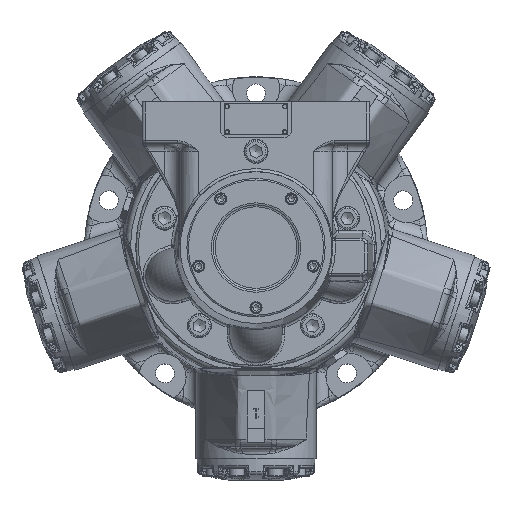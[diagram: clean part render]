
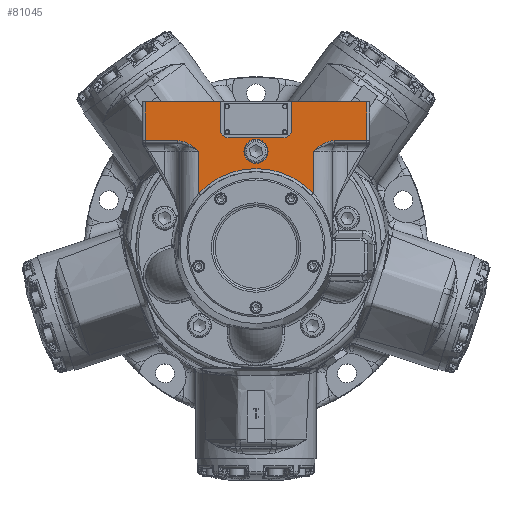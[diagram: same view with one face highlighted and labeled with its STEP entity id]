
A CAD part, top view. The second image highlights one B-rep face of the part: STEP entity #81045.
In plain terms, the highlighted planar face has unit normal (0, 0, 1).
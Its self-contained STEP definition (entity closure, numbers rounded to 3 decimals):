
#1718=FACE_BOUND('',#17662,.T.);
#2055=PLANE('',#86446);
#4512=LINE('',#118540,#8312);
#4531=LINE('',#119482,#8331);
#4565=LINE('',#120072,#8365);
#4570=LINE('',#120351,#8370);
#4572=LINE('',#120433,#8372);
#4592=LINE('',#134383,#8392);
#4599=LINE('',#134398,#8399);
#4600=LINE('',#134400,#8400);
#4623=LINE('',#134558,#8423);
#4624=LINE('',#134562,#8424);
#4625=LINE('',#134565,#8425);
#8312=VECTOR('',#93832,10.);
#8331=VECTOR('',#93899,10.);
#8365=VECTOR('',#94085,10.);
#8370=VECTOR('',#94130,10.);
#8372=VECTOR('',#94142,10.);
#8392=VECTOR('',#94386,10.);
#8399=VECTOR('',#94403,10.);
#8400=VECTOR('',#94404,10.);
#8423=VECTOR('',#94531,10.);
#8424=VECTOR('',#94534,10.);
#8425=VECTOR('',#94537,10.);
#12476=FACE_OUTER_BOUND('',#17661,.T.);
#17661=EDGE_LOOP('',(#51322,#51323,#51324,#51325,#51326,#51327,#51328,#51329,
#51330,#51331,#51332,#51333,#51334,#51335,#51336,#51337));
#17662=EDGE_LOOP('',(#51338));
#22885=CIRCLE('',#86336,83.375);
#22939=CIRCLE('',#86407,12.7);
#22954=CIRCLE('',#86447,8.);
#22955=CIRCLE('',#86448,8.);
#26250=B_SPLINE_CURVE_WITH_KNOTS('',3,(#120133,#120134,#120135,#120136,
#120137,#120138,#120139,#120140,#120141,#120142,#120143,#120144),
 .UNSPECIFIED.,.F.,.F.,(4,2,1,1,1,1,1,1,4),(-0.002,0.,0.504,
1.007,1.511,1.762,2.014,2.266,
2.518),.UNSPECIFIED.);
#26252=B_SPLINE_CURVE_WITH_KNOTS('',3,(#120417,#120418,#120419,#120420,
#120421,#120422,#120423,#120424,#120425,#120426,#120427,#120428),
 .UNSPECIFIED.,.F.,.F.,(4,1,1,1,1,1,1,2,4),(0.,0.504,0.755,
1.007,1.259,1.511,2.014,2.518,
2.519),.UNSPECIFIED.);
#30450=VERTEX_POINT('',#118537);
#30451=VERTEX_POINT('',#118539);
#30503=VERTEX_POINT('',#119468);
#30504=VERTEX_POINT('',#119481);
#30552=VERTEX_POINT('',#120068);
#30553=VERTEX_POINT('',#120070);
#30558=VERTEX_POINT('',#120348);
#30560=VERTEX_POINT('',#120416);
#30561=VERTEX_POINT('',#120431);
#30654=VERTEX_POINT('',#134381);
#30657=VERTEX_POINT('',#134396);
#30658=VERTEX_POINT('',#134399);
#30671=VERTEX_POINT('',#134426);
#30693=VERTEX_POINT('',#134557);
#30694=VERTEX_POINT('',#134559);
#30695=VERTEX_POINT('',#134561);
#30696=VERTEX_POINT('',#134563);
#37829=EDGE_CURVE('',#30450,#30451,#4512,.T.);
#37906=EDGE_CURVE('',#30503,#30504,#4531,.T.);
#38003=EDGE_CURVE('',#30553,#30552,#4565,.T.);
#38004=EDGE_CURVE('',#30504,#30553,#26250,.T.);
#38023=EDGE_CURVE('',#30552,#30558,#4570,.T.);
#38026=EDGE_CURVE('',#30560,#30450,#26252,.T.);
#38029=EDGE_CURVE('',#30561,#30560,#4572,.T.);
#38115=EDGE_CURVE('',#30451,#30503,#22885,.T.);
#38213=EDGE_CURVE('',#30654,#30561,#4592,.T.);
#38221=EDGE_CURVE('',#30654,#30657,#4599,.T.);
#38222=EDGE_CURVE('',#30658,#30558,#4600,.T.);
#38236=EDGE_CURVE('',#30671,#30671,#22939,.T.);
#38275=EDGE_CURVE('',#30657,#30693,#4623,.T.);
#38276=EDGE_CURVE('',#30693,#30694,#22954,.T.);
#38277=EDGE_CURVE('',#30694,#30695,#4624,.T.);
#38278=EDGE_CURVE('',#30695,#30696,#22955,.T.);
#38279=EDGE_CURVE('',#30696,#30658,#4625,.T.);
#51322=ORIENTED_EDGE('',*,*,#38275,.T.);
#51323=ORIENTED_EDGE('',*,*,#38276,.T.);
#51324=ORIENTED_EDGE('',*,*,#38277,.T.);
#51325=ORIENTED_EDGE('',*,*,#38278,.T.);
#51326=ORIENTED_EDGE('',*,*,#38279,.T.);
#51327=ORIENTED_EDGE('',*,*,#38222,.T.);
#51328=ORIENTED_EDGE('',*,*,#38023,.F.);
#51329=ORIENTED_EDGE('',*,*,#38003,.F.);
#51330=ORIENTED_EDGE('',*,*,#38004,.F.);
#51331=ORIENTED_EDGE('',*,*,#37906,.F.);
#51332=ORIENTED_EDGE('',*,*,#38115,.F.);
#51333=ORIENTED_EDGE('',*,*,#37829,.F.);
#51334=ORIENTED_EDGE('',*,*,#38026,.F.);
#51335=ORIENTED_EDGE('',*,*,#38029,.F.);
#51336=ORIENTED_EDGE('',*,*,#38213,.F.);
#51337=ORIENTED_EDGE('',*,*,#38221,.T.);
#51338=ORIENTED_EDGE('',*,*,#38236,.T.);
#81045=ADVANCED_FACE('',(#12476,#1718),#2055,.T.);
#86336=AXIS2_PLACEMENT_3D('',#122171,#94273,#94274);
#86407=AXIS2_PLACEMENT_3D('',#134428,#94431,#94432);
#86446=AXIS2_PLACEMENT_3D('',#134556,#94529,#94530);
#86447=AXIS2_PLACEMENT_3D('',#134560,#94532,#94533);
#86448=AXIS2_PLACEMENT_3D('',#134564,#94535,#94536);
#93832=DIRECTION('',(0.,-1.,0.));
#93899=DIRECTION('',(0.,1.,0.));
#94085=DIRECTION('',(-1.,0.,0.));
#94130=DIRECTION('',(0.,1.,0.));
#94142=DIRECTION('',(-1.,0.,0.));
#94273=DIRECTION('center_axis',(0.,0.,
1.));
#94274=DIRECTION('ref_axis',(0.,1.,0.));
#94386=DIRECTION('',(0.,-1.,0.));
#94403=DIRECTION('',(-1.,0.,0.));
#94404=DIRECTION('',(-1.,0.,0.));
#94431=DIRECTION('center_axis',(0.,0.,
-1.));
#94432=DIRECTION('ref_axis',(-1.,0.,0.));
#94529=DIRECTION('center_axis',(0.,0.,
1.));
#94530=DIRECTION('ref_axis',(-1.,0.,0.));
#94531=DIRECTION('',(0.,-1.,0.));
#94532=DIRECTION('center_axis',(0.,0.,
-1.));
#94533=DIRECTION('ref_axis',(0.,-1.,0.));
#94534=DIRECTION('',(-1.,0.,0.));
#94535=DIRECTION('center_axis',(0.,0.,
-1.));
#94536=DIRECTION('ref_axis',(-1.,0.,0.));
#94537=DIRECTION('',(0.,1.,0.));
#118537=CARTESIAN_POINT('',(60.478,102.,378.978));
#118539=CARTESIAN_POINT('',(60.478,57.392,378.978));
#118540=CARTESIAN_POINT('',(60.478,134.5,378.978));
#119468=CARTESIAN_POINT('',(-60.478,57.392,378.978));
#119481=CARTESIAN_POINT('',(-60.478,102.,378.978));
#119482=CARTESIAN_POINT('',(-60.478,79.5,378.978));
#120068=CARTESIAN_POINT('',(-117.,113.,378.978));
#120070=CARTESIAN_POINT('',(-82.727,113.,378.978));
#120072=CARTESIAN_POINT('',(60.,113.,378.978));
#120133=CARTESIAN_POINT('Ctrl Pts',(-60.478,102.,378.978));
#120134=CARTESIAN_POINT('Ctrl Pts',(-60.483,102.004,
378.978));
#120135=CARTESIAN_POINT('Ctrl Pts',(-60.488,102.008,
378.977));
#120136=CARTESIAN_POINT('Ctrl Pts',(-61.801,103.064,378.978));
#120137=CARTESIAN_POINT('Ctrl Pts',(-64.445,105.191,
378.978));
#120138=CARTESIAN_POINT('Ctrl Pts',(-68.576,108.18,
378.978));
#120139=CARTESIAN_POINT('Ctrl Pts',(-72.226,110.283,
378.978));
#120140=CARTESIAN_POINT('Ctrl Pts',(-75.303,111.601,
378.978));
#120141=CARTESIAN_POINT('Ctrl Pts',(-77.711,112.374,
378.978));
#120142=CARTESIAN_POINT('Ctrl Pts',(-80.205,112.879,
378.978));
#120143=CARTESIAN_POINT('Ctrl Pts',(-81.888,113.,378.978));
#120144=CARTESIAN_POINT('Ctrl Pts',(-82.727,113.,378.978));
#120348=CARTESIAN_POINT('',(-117.,154.,378.978));
#120351=CARTESIAN_POINT('',(-117.,159.,378.978));
#120416=CARTESIAN_POINT('',(82.727,113.,378.978));
#120417=CARTESIAN_POINT('Ctrl Pts',(82.727,113.,378.978));
#120418=CARTESIAN_POINT('Ctrl Pts',(81.049,113.,378.978));
#120419=CARTESIAN_POINT('Ctrl Pts',(78.513,112.632,378.978));
#120420=CARTESIAN_POINT('Ctrl Pts',(75.303,111.6,378.978));
#120421=CARTESIAN_POINT('Ctrl Pts',(72.995,110.612,378.978));
#120422=CARTESIAN_POINT('Ctrl Pts',(70.765,109.441,378.978));
#120423=CARTESIAN_POINT('Ctrl Pts',(67.888,107.682,378.978));
#120424=CARTESIAN_POINT('Ctrl Pts',(64.444,105.19,378.978));
#120425=CARTESIAN_POINT('Ctrl Pts',(61.801,103.064,378.978));
#120426=CARTESIAN_POINT('Ctrl Pts',(60.488,102.008,378.978));
#120427=CARTESIAN_POINT('Ctrl Pts',(60.483,102.004,378.978));
#120428=CARTESIAN_POINT('Ctrl Pts',(60.478,102.,378.978));
#120431=CARTESIAN_POINT('',(117.,113.,378.978));
#120433=CARTESIAN_POINT('',(60.,113.,378.978));
#122171=CARTESIAN_POINT('Origin',(0.,0.,
378.978));
#134381=CARTESIAN_POINT('',(117.,154.,378.978));
#134383=CARTESIAN_POINT('',(117.,159.,378.978));
#134396=CARTESIAN_POINT('',(37.5,154.,378.978));
#134398=CARTESIAN_POINT('',(149.802,154.,378.978));
#134399=CARTESIAN_POINT('',(-37.5,154.,378.978));
#134400=CARTESIAN_POINT('',(149.802,154.,378.978));
#134426=CARTESIAN_POINT('',(12.7,101.6,378.978));
#134428=CARTESIAN_POINT('Origin',(0.,101.6,378.978));
#134556=CARTESIAN_POINT('Origin',(120.,159.,378.978));
#134557=CARTESIAN_POINT('',(37.5,124.,378.978));
#134558=CARTESIAN_POINT('',(37.5,156.5,378.978));
#134559=CARTESIAN_POINT('',(29.5,116.,378.978));
#134560=CARTESIAN_POINT('Origin',(29.5,124.,378.978));
#134561=CARTESIAN_POINT('',(-29.5,116.,378.978));
#134562=CARTESIAN_POINT('',(74.75,116.,378.978));
#134563=CARTESIAN_POINT('',(-37.5,124.,378.978));
#134564=CARTESIAN_POINT('Origin',(-29.5,124.,378.978));
#134565=CARTESIAN_POINT('',(-37.5,141.5,378.978));
